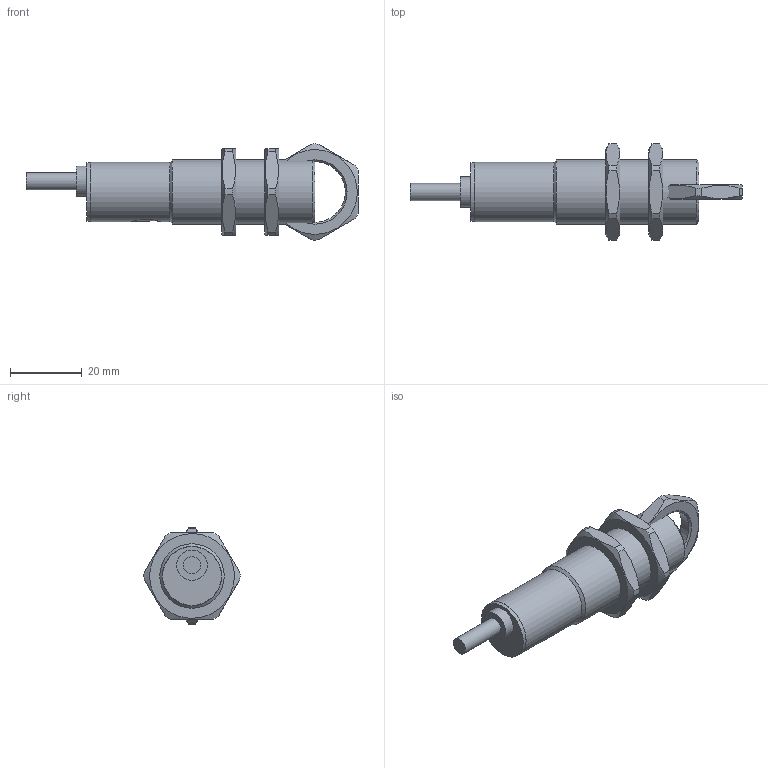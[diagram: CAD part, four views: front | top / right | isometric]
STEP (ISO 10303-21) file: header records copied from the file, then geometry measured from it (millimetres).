
FILE_DESCRIPTION( ( 'Unknown' ), '1' );
FILE_NAME( '//baumerholding.org/frauenfeld/bereich/BECH/Services/me_CAD/Solid Edge/Models/Dokumentationen/Kapazitiv/CFAx 18/Vereinfachte Modelle/Neutralformate/CFAM_18_Pot_Kabel.stp', 'Unknown', ( 'Unknown' ), ( 'Unknown' ), 'XStep 1.0', 'Unknown', ' ' );
FILE_SCHEMA( ( 'CONFIG_CONTROL_DESIGN' ) );
Length unit declared in the file: millimetre
Products named in the file (3): Assem1; CFAM_18_Pot_Kabel_oA; 101474
Bounding box: 92.6 x 26.8 x 26.8 mm (x, y, z)
Volume: 34350.1 mm3; surface area: 11475.7 mm2
Topology: 5 solids, 5 shells, 107 faces, 249 edges, 162 vertices
Faces by surface type: plane 46, cylinder 45, cone 16
Full cylindrical faces by diameter (mm): 3 x2, 4.8 x2, 8.5 x2, 16 x2, 16.4 x2, 16.5 x2, 16.917 x3, 18 x2
Entity records: 1544 total; most frequent: CARTESIAN_POINT 499, DIRECTION 192, ORIENTED_EDGE 162, AXIS2_PLACEMENT_3D 84, EDGE_CURVE 81, EDGE_LOOP 66, VERTEX_POINT 61, FACE_OUTER_BOUND 52
